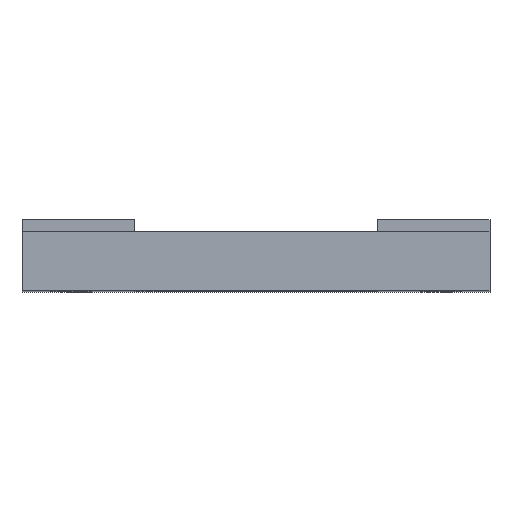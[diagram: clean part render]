
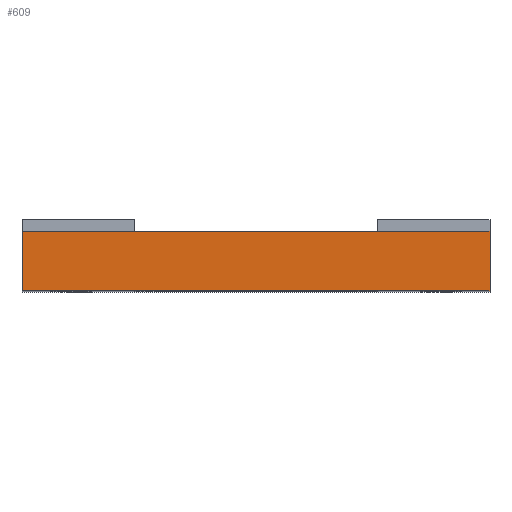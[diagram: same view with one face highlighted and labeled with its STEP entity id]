
A CAD part, top view. The second image highlights one B-rep face of the part: STEP entity #609.
In plain terms, the highlighted planar face has unit normal (0, 0, 1).
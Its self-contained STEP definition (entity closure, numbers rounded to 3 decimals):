
#42 = ORIENTED_EDGE ( 'NONE', *, *, #1066, .F. ) ;
#82 = VERTEX_POINT ( 'NONE', #1359 ) ;
#153 = VECTOR ( 'NONE', #943, 1000. ) ;
#154 = CARTESIAN_POINT ( 'NONE',  ( -25., 6.35, 0. ) ) ;
#159 = ORIENTED_EDGE ( 'NONE', *, *, #1680, .T. ) ;
#180 = VERTEX_POINT ( 'NONE', #1734 ) ;
#244 = CARTESIAN_POINT ( 'NONE',  ( -25., 6.35, 0. ) ) ;
#323 = CARTESIAN_POINT ( 'NONE',  ( 25., 6.35, 0. ) ) ;
#409 = PLANE ( 'NONE',  #493 ) ;
#445 = CARTESIAN_POINT ( 'NONE',  ( -25., 6.35, 0. ) ) ;
#493 = AXIS2_PLACEMENT_3D ( 'NONE', #154, #952, #554 ) ;
#554 = DIRECTION ( 'NONE',  ( -1., 0., 0. ) ) ;
#597 = VECTOR ( 'NONE', #1018, 1000. ) ;
#609 = ADVANCED_FACE ( 'NONE', ( #688 ), #409, .F. ) ;
#623 = ORIENTED_EDGE ( 'NONE', *, *, #1763, .F. ) ;
#688 = FACE_OUTER_BOUND ( 'NONE', #1249, .T. ) ;
#720 = VECTOR ( 'NONE', #1752, 1000. ) ;
#809 = LINE ( 'NONE', #244, #720 ) ;
#903 = LINE ( 'NONE', #913, #1141 ) ;
#913 = CARTESIAN_POINT ( 'NONE',  ( -25., 0., 0. ) ) ;
#943 = DIRECTION ( 'NONE',  ( 1., 0., 0. ) ) ;
#952 = DIRECTION ( 'NONE',  ( 0., 0., -1. ) ) ;
#967 = VERTEX_POINT ( 'NONE', #1083 ) ;
#1018 = DIRECTION ( 'NONE',  ( 0., -1., 0. ) ) ;
#1066 = EDGE_CURVE ( 'NONE', #82, #967, #1422, .T. ) ;
#1079 = CARTESIAN_POINT ( 'NONE',  ( -25., 6.35, 0. ) ) ;
#1083 = CARTESIAN_POINT ( 'NONE',  ( 25., 0., 0. ) ) ;
#1115 = ORIENTED_EDGE ( 'NONE', *, *, #1340, .T. ) ;
#1141 = VECTOR ( 'NONE', #1157, 1000. ) ;
#1157 = DIRECTION ( 'NONE',  ( 1., 0., 0. ) ) ;
#1249 = EDGE_LOOP ( 'NONE', ( #159, #42, #623, #1115 ) ) ;
#1340 = EDGE_CURVE ( 'NONE', #1431, #180, #809, .T. ) ;
#1355 = LINE ( 'NONE', #1079, #153 ) ;
#1359 = CARTESIAN_POINT ( 'NONE',  ( 25., 6.35, 0. ) ) ;
#1422 = LINE ( 'NONE', #323, #597 ) ;
#1431 = VERTEX_POINT ( 'NONE', #445 ) ;
#1680 = EDGE_CURVE ( 'NONE', #180, #967, #903, .T. ) ;
#1734 = CARTESIAN_POINT ( 'NONE',  ( -25., 0., 0. ) ) ;
#1752 = DIRECTION ( 'NONE',  ( 0., -1., 0. ) ) ;
#1763 = EDGE_CURVE ( 'NONE', #1431, #82, #1355, .T. ) ;
